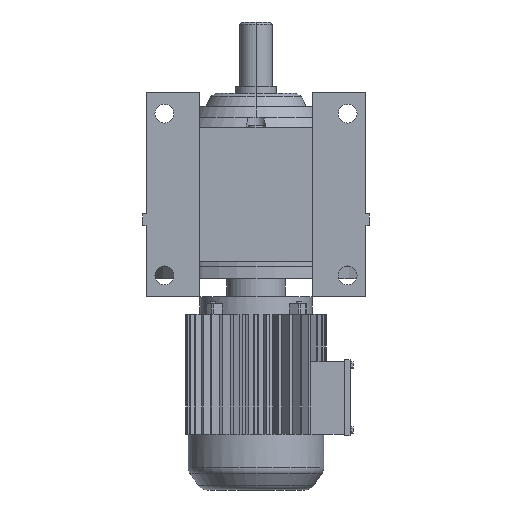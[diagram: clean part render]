
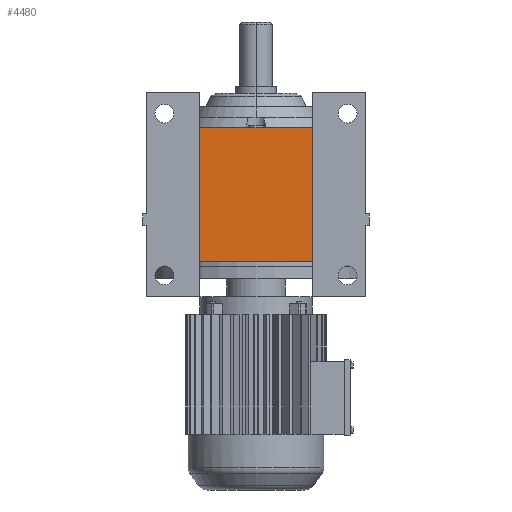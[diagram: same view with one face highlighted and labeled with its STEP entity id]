
A CAD part, front view. The second image highlights one B-rep face of the part: STEP entity #4480.
In plain terms, the highlighted planar face has unit normal (0, -1, 0).
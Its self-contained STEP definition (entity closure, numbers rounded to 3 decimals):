
#582 = PLANE('',#583);
#583 = AXIS2_PLACEMENT_3D('',#584,#585,#586);
#584 = CARTESIAN_POINT('',(-87.152,14.15,128.875));
#585 = DIRECTION('',(0.,0.,1.));
#586 = DIRECTION('',(1.,0.,0.));
#690 = VERTEX_POINT('',#691);
#691 = CARTESIAN_POINT('',(-52.,-157.833,128.875));
#707 = PLANE('',#708);
#708 = AXIS2_PLACEMENT_3D('',#709,#710,#711);
#709 = CARTESIAN_POINT('',(-52.,-137.,-28.));
#710 = DIRECTION('',(1.,0.,0.));
#711 = DIRECTION('',(0.,0.,-1.));
#719 = EDGE_CURVE('',#690,#720,#722,.T.);
#720 = VERTEX_POINT('',#721);
#721 = CARTESIAN_POINT('',(52.,-157.833,128.875));
#722 = SURFACE_CURVE('',#723,(#727,#734),.PCURVE_S1.);
#723 = LINE('',#724,#725);
#724 = CARTESIAN_POINT('',(-102.,-157.833,128.875));
#725 = VECTOR('',#726,1.);
#726 = DIRECTION('',(1.,0.,0.));
#727 = PCURVE('',#582,#728);
#728 = DEFINITIONAL_REPRESENTATION('',(#729),#733);
#729 = LINE('',#730,#731);
#730 = CARTESIAN_POINT('',(-14.848,-171.983));
#731 = VECTOR('',#732,1.);
#732 = DIRECTION('',(1.,0.));
#733 = ( GEOMETRIC_REPRESENTATION_CONTEXT(2) 
PARAMETRIC_REPRESENTATION_CONTEXT() REPRESENTATION_CONTEXT('2D SPACE',''
  ) );
#734 = PCURVE('',#735,#740);
#735 = PLANE('',#736);
#736 = AXIS2_PLACEMENT_3D('',#737,#738,#739);
#737 = CARTESIAN_POINT('',(-102.,-157.833,128.875));
#738 = DIRECTION('',(0.,1.,0.));
#739 = DIRECTION('',(0.,0.,1.));
#740 = DEFINITIONAL_REPRESENTATION('',(#741),#745);
#741 = LINE('',#742,#743);
#742 = CARTESIAN_POINT('',(0.,0.));
#743 = VECTOR('',#744,1.);
#744 = DIRECTION('',(0.,1.));
#745 = ( GEOMETRIC_REPRESENTATION_CONTEXT(2) 
PARAMETRIC_REPRESENTATION_CONTEXT() REPRESENTATION_CONTEXT('2D SPACE',''
  ) );
#763 = PLANE('',#764);
#764 = AXIS2_PLACEMENT_3D('',#765,#766,#767);
#765 = CARTESIAN_POINT('',(52.,-137.,-28.));
#766 = DIRECTION('',(-1.,0.,0.));
#767 = DIRECTION('',(0.,0.,1.));
#3483 = EDGE_CURVE('',#690,#3484,#3486,.T.);
#3484 = VERTEX_POINT('',#3485);
#3485 = CARTESIAN_POINT('',(-52.,-157.833,5.125));
#3486 = SURFACE_CURVE('',#3487,(#3491,#3498),.PCURVE_S1.);
#3487 = LINE('',#3488,#3489);
#3488 = CARTESIAN_POINT('',(-52.,-157.833,128.875));
#3489 = VECTOR('',#3490,1.);
#3490 = DIRECTION('',(0.,0.,-1.));
#3491 = PCURVE('',#707,#3492);
#3492 = DEFINITIONAL_REPRESENTATION('',(#3493),#3497);
#3493 = LINE('',#3494,#3495);
#3494 = CARTESIAN_POINT('',(-156.875,-20.833));
#3495 = VECTOR('',#3496,1.);
#3496 = DIRECTION('',(1.,0.));
#3497 = ( GEOMETRIC_REPRESENTATION_CONTEXT(2) 
PARAMETRIC_REPRESENTATION_CONTEXT() REPRESENTATION_CONTEXT('2D SPACE',''
  ) );
#3498 = PCURVE('',#735,#3499);
#3499 = DEFINITIONAL_REPRESENTATION('',(#3500),#3504);
#3500 = LINE('',#3501,#3502);
#3501 = CARTESIAN_POINT('',(0.,50.));
#3502 = VECTOR('',#3503,1.);
#3503 = DIRECTION('',(-1.,0.));
#3504 = ( GEOMETRIC_REPRESENTATION_CONTEXT(2) 
PARAMETRIC_REPRESENTATION_CONTEXT() REPRESENTATION_CONTEXT('2D SPACE',''
  ) );
#3656 = PLANE('',#3657);
#3657 = AXIS2_PLACEMENT_3D('',#3658,#3659,#3660);
#3658 = CARTESIAN_POINT('',(-87.152,14.15,5.125));
#3659 = DIRECTION('',(0.,0.,1.));
#3660 = DIRECTION('',(1.,0.,0.));
#4181 = EDGE_CURVE('',#4182,#720,#4184,.T.);
#4182 = VERTEX_POINT('',#4183);
#4183 = CARTESIAN_POINT('',(52.,-157.833,5.125));
#4184 = SURFACE_CURVE('',#4185,(#4189,#4196),.PCURVE_S1.);
#4185 = LINE('',#4186,#4187);
#4186 = CARTESIAN_POINT('',(52.,-157.833,128.875));
#4187 = VECTOR('',#4188,1.);
#4188 = DIRECTION('',(0.,0.,1.));
#4189 = PCURVE('',#763,#4190);
#4190 = DEFINITIONAL_REPRESENTATION('',(#4191),#4195);
#4191 = LINE('',#4192,#4193);
#4192 = CARTESIAN_POINT('',(156.875,-20.833));
#4193 = VECTOR('',#4194,1.);
#4194 = DIRECTION('',(1.,0.));
#4195 = ( GEOMETRIC_REPRESENTATION_CONTEXT(2) 
PARAMETRIC_REPRESENTATION_CONTEXT() REPRESENTATION_CONTEXT('2D SPACE',''
  ) );
#4196 = PCURVE('',#735,#4197);
#4197 = DEFINITIONAL_REPRESENTATION('',(#4198),#4202);
#4198 = LINE('',#4199,#4200);
#4199 = CARTESIAN_POINT('',(0.,154.));
#4200 = VECTOR('',#4201,1.);
#4201 = DIRECTION('',(1.,0.));
#4202 = ( GEOMETRIC_REPRESENTATION_CONTEXT(2) 
PARAMETRIC_REPRESENTATION_CONTEXT() REPRESENTATION_CONTEXT('2D SPACE',''
  ) );
#4480 = ADVANCED_FACE('',(#4481),#735,.F.);
#4481 = FACE_BOUND('',#4482,.T.);
#4482 = EDGE_LOOP('',(#4483,#4484,#4485,#4506));
#4483 = ORIENTED_EDGE('',*,*,#719,.F.);
#4484 = ORIENTED_EDGE('',*,*,#3483,.T.);
#4485 = ORIENTED_EDGE('',*,*,#4486,.T.);
#4486 = EDGE_CURVE('',#3484,#4182,#4487,.T.);
#4487 = SURFACE_CURVE('',#4488,(#4492,#4499),.PCURVE_S1.);
#4488 = LINE('',#4489,#4490);
#4489 = CARTESIAN_POINT('',(-102.,-157.833,5.125));
#4490 = VECTOR('',#4491,1.);
#4491 = DIRECTION('',(1.,0.,0.));
#4492 = PCURVE('',#735,#4493);
#4493 = DEFINITIONAL_REPRESENTATION('',(#4494),#4498);
#4494 = LINE('',#4495,#4496);
#4495 = CARTESIAN_POINT('',(-123.75,0.));
#4496 = VECTOR('',#4497,1.);
#4497 = DIRECTION('',(0.,1.));
#4498 = ( GEOMETRIC_REPRESENTATION_CONTEXT(2) 
PARAMETRIC_REPRESENTATION_CONTEXT() REPRESENTATION_CONTEXT('2D SPACE',''
  ) );
#4499 = PCURVE('',#3656,#4500);
#4500 = DEFINITIONAL_REPRESENTATION('',(#4501),#4505);
#4501 = LINE('',#4502,#4503);
#4502 = CARTESIAN_POINT('',(-14.848,-171.983));
#4503 = VECTOR('',#4504,1.);
#4504 = DIRECTION('',(1.,0.));
#4505 = ( GEOMETRIC_REPRESENTATION_CONTEXT(2) 
PARAMETRIC_REPRESENTATION_CONTEXT() REPRESENTATION_CONTEXT('2D SPACE',''
  ) );
#4506 = ORIENTED_EDGE('',*,*,#4181,.T.);
